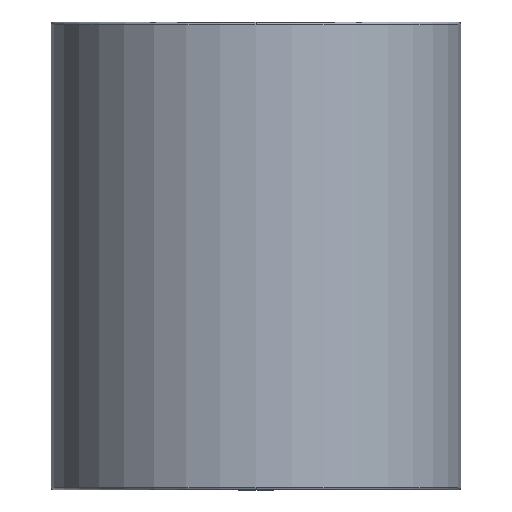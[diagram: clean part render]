
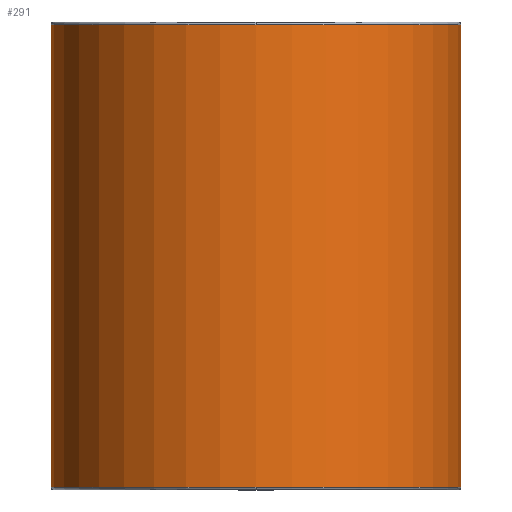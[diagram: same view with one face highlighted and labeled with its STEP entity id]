
A CAD part, front view. The second image highlights one B-rep face of the part: STEP entity #291.
In plain terms, the highlighted cylindrical face has radius 30.625 mm (diameter 61.25 mm), a partial arc.
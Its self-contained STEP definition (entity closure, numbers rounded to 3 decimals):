
#196=CARTESIAN_POINT('',(0.0,-30.625,41.1));
#197=VERTEX_POINT('',#196);
#223=CARTESIAN_POINT('',(-30.625,0.,41.1));
#224=VERTEX_POINT('',#223);
#232=CARTESIAN_POINT('',(0.0,0.,41.1));
#233=DIRECTION('',(0.0,0.0,1.0));
#234=DIRECTION('',(1.0,0.0,0.0));
#235=AXIS2_PLACEMENT_3D('',#232,#233,#234);
#236=CIRCLE('',#235,30.625);
#237=EDGE_CURVE('',#224,#197,#236,.T.);
#242=CARTESIAN_POINT('',(0.0,0.,6.5));
#243=DIRECTION('',(0.0,0.,1.0));
#244=DIRECTION('',(1.0,0.0,0.0));
#245=AXIS2_PLACEMENT_3D('',#242,#243,#244);
#246=CYLINDRICAL_SURFACE('',#245,30.625);
#247=CARTESIAN_POINT('',(30.625,0.,41.1));
#248=VERTEX_POINT('',#247);
#249=CARTESIAN_POINT('',(30.625,0.,-28.1));
#250=VERTEX_POINT('',#249);
#251=CARTESIAN_POINT('',(30.625,0.,41.1));
#252=DIRECTION('',(0.0,0.0,-1.0));
#253=VECTOR('',#252,69.2);
#254=LINE('',#251,#253);
#255=EDGE_CURVE('',#248,#250,#254,.T.);
#256=ORIENTED_EDGE('',*,*,#255,.F.);
#257=CARTESIAN_POINT('',(0.0,0.,41.1));
#258=DIRECTION('',(0.0,0.0,1.0));
#259=DIRECTION('',(1.0,0.0,0.0));
#260=AXIS2_PLACEMENT_3D('',#257,#258,#259);
#261=CIRCLE('',#260,30.625);
#262=EDGE_CURVE('',#197,#248,#261,.T.);
#263=ORIENTED_EDGE('',*,*,#262,.F.);
#264=ORIENTED_EDGE('',*,*,#237,.F.);
#265=CARTESIAN_POINT('',(-30.625,0.,-28.1));
#266=VERTEX_POINT('',#265);
#267=CARTESIAN_POINT('',(-30.625,0.,41.1));
#268=DIRECTION('',(0.0,0.0,-1.0));
#269=VECTOR('',#268,69.2);
#270=LINE('',#267,#269);
#271=EDGE_CURVE('',#224,#266,#270,.T.);
#272=ORIENTED_EDGE('',*,*,#271,.T.);
#273=CARTESIAN_POINT('',(0.0,-30.625,-28.1));
#274=VERTEX_POINT('',#273);
#275=CARTESIAN_POINT('',(0.0,0.,-28.1));
#276=DIRECTION('',(0.0,0.0,1.0));
#277=DIRECTION('',(1.0,0.0,0.0));
#278=AXIS2_PLACEMENT_3D('',#275,#276,#277);
#279=CIRCLE('',#278,30.625);
#280=EDGE_CURVE('',#266,#274,#279,.T.);
#281=ORIENTED_EDGE('',*,*,#280,.T.);
#282=CARTESIAN_POINT('',(0.0,0.,-28.1));
#283=DIRECTION('',(0.0,0.0,1.0));
#284=DIRECTION('',(1.0,0.0,0.0));
#285=AXIS2_PLACEMENT_3D('',#282,#283,#284);
#286=CIRCLE('',#285,30.625);
#287=EDGE_CURVE('',#274,#250,#286,.T.);
#288=ORIENTED_EDGE('',*,*,#287,.T.);
#289=EDGE_LOOP('',(#256,#263,#264,#272,#281,#288));
#290=FACE_OUTER_BOUND('',#289,.T.);
#291=ADVANCED_FACE('',(#290),#246,.T.);
